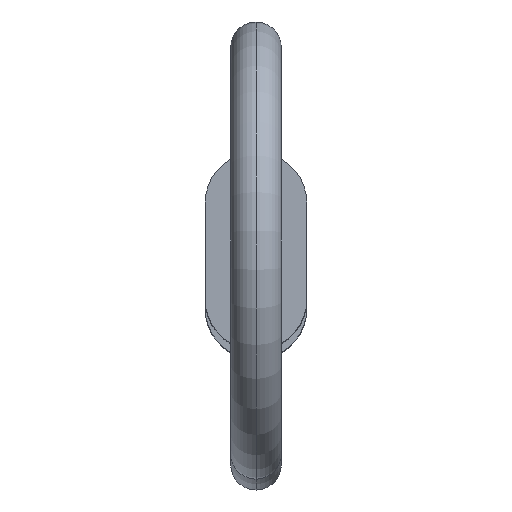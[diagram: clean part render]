
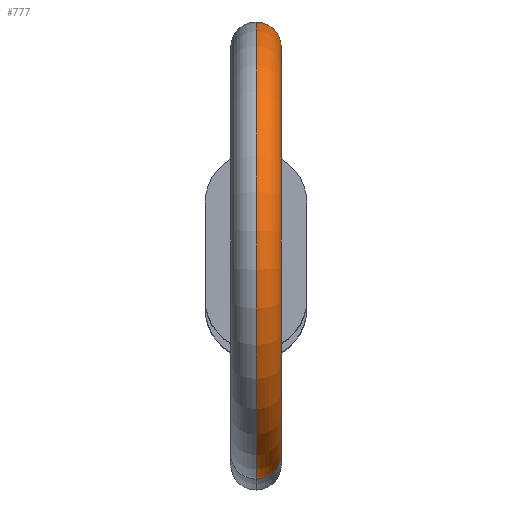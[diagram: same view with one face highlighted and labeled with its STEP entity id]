
A CAD part, top view. The second image highlights one B-rep face of the part: STEP entity #777.
In plain terms, the highlighted toroidal (fillet/blend) face has major radius 4.8 mm and minor radius 0.595 mm.
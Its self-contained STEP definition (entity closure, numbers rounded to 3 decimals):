
#1 = AXIS2_PLACEMENT_3D ( 'NONE', #704, #932, #270 ) ;
#3 = DIRECTION ( 'NONE',  ( 1., 0., 0. ) ) ;
#93 = DIRECTION ( 'NONE',  ( 0., 0., -1. ) ) ;
#98 = EDGE_CURVE ( 'NONE', #839, #136, #113, .T. ) ;
#102 = EDGE_CURVE ( 'NONE', #913, #839, #503, .T. ) ;
#113 = CIRCLE ( 'NONE', #734, 0.595 ) ;
#118 = EDGE_LOOP ( 'NONE', ( #240, #234, #407, #621 ) ) ;
#136 = VERTEX_POINT ( 'NONE', #852 ) ;
#216 = AXIS2_PLACEMENT_3D ( 'NONE', #727, #796, #3 ) ;
#229 = TOROIDAL_SURFACE ( 'NONE', #438, 4.8, 0.595 ) ;
#234 = ORIENTED_EDGE ( 'NONE', *, *, #332, .T. ) ;
#240 = ORIENTED_EDGE ( 'NONE', *, *, #510, .T. ) ;
#253 = CARTESIAN_POINT ( 'NONE',  ( 0., 2.001, 73.397 ) ) ;
#270 = DIRECTION ( 'NONE',  ( 0., 0., -1. ) ) ;
#298 = FACE_OUTER_BOUND ( 'NONE', #118, .T. ) ;
#332 = EDGE_CURVE ( 'NONE', #896, #136, #515, .T. ) ;
#362 = DIRECTION ( 'NONE',  ( 0., 0., -1. ) ) ;
#384 = CARTESIAN_POINT ( 'NONE',  ( 0., -1.133, 76.2 ) ) ;
#406 = DIRECTION ( 'NONE',  ( 1., 0., 0. ) ) ;
#407 = ORIENTED_EDGE ( 'NONE', *, *, #98, .F. ) ;
#438 = AXIS2_PLACEMENT_3D ( 'NONE', #384, #531, #93 ) ;
#503 = CIRCLE ( 'NONE', #1, 4.205 ) ;
#510 = EDGE_CURVE ( 'NONE', #913, #896, #770, .T. ) ;
#515 = CIRCLE ( 'NONE', #646, 5.395 ) ;
#531 = DIRECTION ( 'NONE',  ( 1., 0., 0. ) ) ;
#600 = CARTESIAN_POINT ( 'NONE',  ( 0., -4.711, 73. ) ) ;
#621 = ORIENTED_EDGE ( 'NONE', *, *, #102, .F. ) ;
#646 = AXIS2_PLACEMENT_3D ( 'NONE', #865, #937, #362 ) ;
#704 = CARTESIAN_POINT ( 'NONE',  ( 0., -1.133, 76.2 ) ) ;
#727 = CARTESIAN_POINT ( 'NONE',  ( 0., 2.445, 73. ) ) ;
#734 = AXIS2_PLACEMENT_3D ( 'NONE', #600, #767, #406 ) ;
#745 = CARTESIAN_POINT ( 'NONE',  ( 0., 2.888, 72.603 ) ) ;
#767 = DIRECTION ( 'NONE',  ( 0., 0.667, -0.745 ) ) ;
#770 = CIRCLE ( 'NONE', #216, 0.595 ) ;
#777 = ADVANCED_FACE ( 'NONE', ( #298 ), #229, .T. ) ;
#796 = DIRECTION ( 'NONE',  ( 0., 0.667, 0.745 ) ) ;
#830 = CARTESIAN_POINT ( 'NONE',  ( 0., -4.267, 73.397 ) ) ;
#839 = VERTEX_POINT ( 'NONE', #830 ) ;
#852 = CARTESIAN_POINT ( 'NONE',  ( 0., -5.154, 72.603 ) ) ;
#865 = CARTESIAN_POINT ( 'NONE',  ( 0., -1.133, 76.2 ) ) ;
#896 = VERTEX_POINT ( 'NONE', #745 ) ;
#913 = VERTEX_POINT ( 'NONE', #253 ) ;
#932 = DIRECTION ( 'NONE',  ( 1., 0., 0. ) ) ;
#937 = DIRECTION ( 'NONE',  ( 1., 0., 0. ) ) ;
